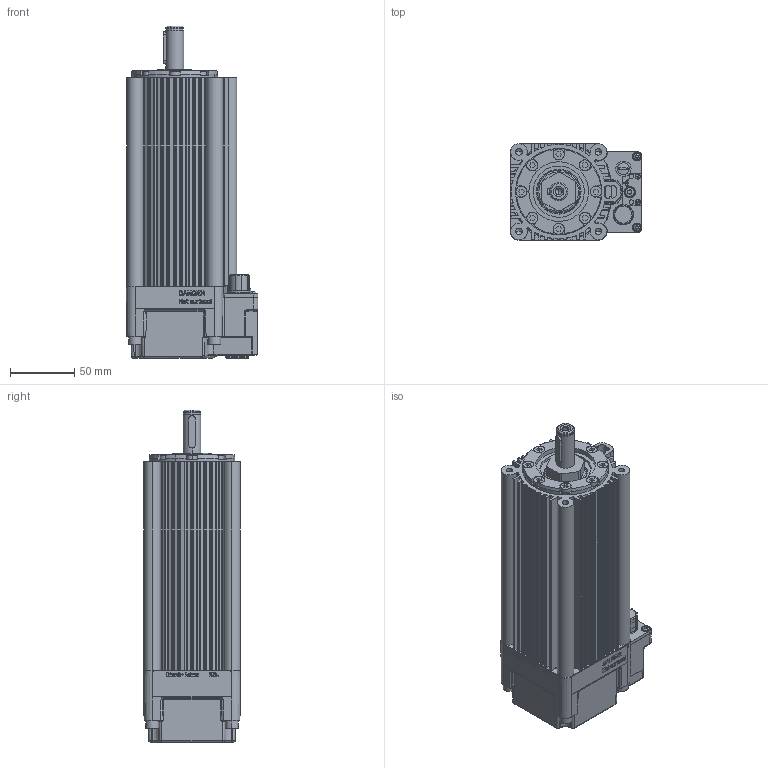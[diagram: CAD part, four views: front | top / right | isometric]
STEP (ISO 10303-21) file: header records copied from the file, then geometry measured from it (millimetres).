
FILE_DESCRIPTION (( 'STEP AP214' ), '1' );
FILE_NAME ('AD 1403.STEP', '2022-03-10T09:51:05', ( '' ), ( '' ), 'SwSTEP 2.0', 'SolidWorks 2019', '' );
FILE_SCHEMA (( 'AUTOMOTIVE_DESIGN' ));
Length unit declared in the file: millimetre
Products named in the file (1): AD 1403
Bounding box: 103.02 x 75.99 x 259.3 mm (x, y, z)
Volume: 1174207.4 mm3; surface area: 222917.3 mm2
Topology: 40 solids, 40 shells, 2155 faces, 5939 edges, 3976 vertices
Faces by surface type: plane 798, cylinder 786, cone 272, torus 155, bspline 118, sphere 26
Entity records: 99875 total; most frequent: CARTESIAN_POINT 20587, ORIENTED_EDGE 11688, DIRECTION 11482, EDGE_CURVE 5844, AXIS2_PLACEMENT_3D 4242, VERTEX_POINT 3964, VECTOR 2998, LINE 2998
